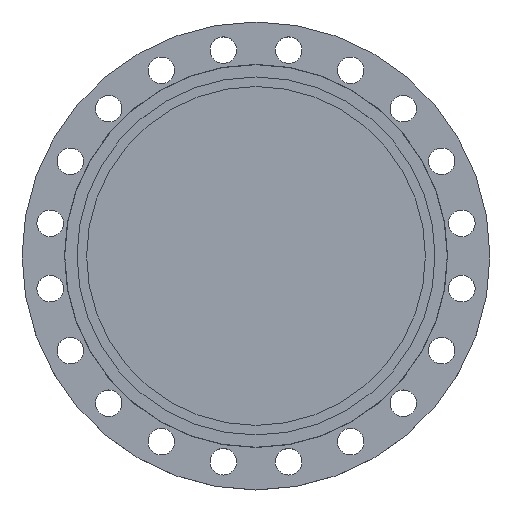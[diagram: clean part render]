
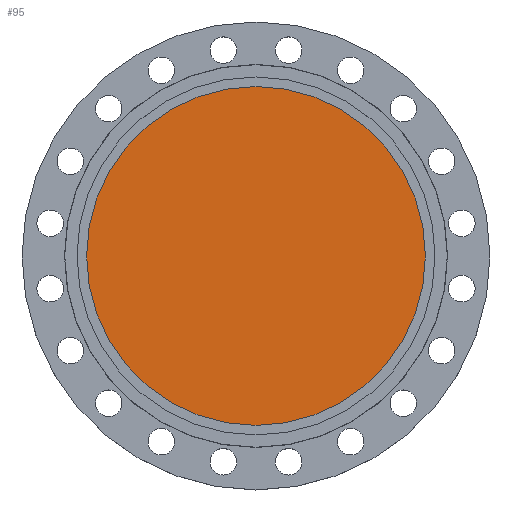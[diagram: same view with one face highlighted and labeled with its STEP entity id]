
A CAD part, top view. The second image highlights one B-rep face of the part: STEP entity #95.
In plain terms, the highlighted planar face has unit normal (0, 0, 1).
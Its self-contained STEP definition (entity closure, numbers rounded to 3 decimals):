
#42 = CARTESIAN_POINT ( 'NONE',  ( 248., 0., 0. ) ) ;
#95 = ADVANCED_FACE ( 'NONE', ( #996 ), #994, .T. ) ;
#333 = AXIS2_PLACEMENT_3D ( 'NONE', #877, #1612, #2043 ) ;
#389 = DIRECTION ( 'NONE',  ( -1., 0., 0. ) ) ;
#428 = DIRECTION ( 'NONE',  ( 0., 0., -1. ) ) ;
#464 = CARTESIAN_POINT ( 'NONE',  ( -248., 0., 0. ) ) ;
#511 = AXIS2_PLACEMENT_3D ( 'NONE', #993, #990, #987 ) ;
#522 = CARTESIAN_POINT ( 'NONE',  ( 0., 0., 0. ) ) ;
#552 = AXIS2_PLACEMENT_3D ( 'NONE', #522, #428, #389 ) ;
#877 = CARTESIAN_POINT ( 'NONE',  ( 0., 0., 0. ) ) ;
#987 = DIRECTION ( 'NONE',  ( 1., 0., 0. ) ) ;
#990 = DIRECTION ( 'NONE',  ( 0., 0., 1. ) ) ;
#993 = CARTESIAN_POINT ( 'NONE',  ( 0., 0., 0. ) ) ;
#994 = PLANE ( 'NONE',  #511 ) ;
#996 = FACE_OUTER_BOUND ( 'NONE', #1934, .T. ) ;
#1029 = VERTEX_POINT ( 'NONE', #464 ) ;
#1210 = ORIENTED_EDGE ( 'NONE', *, *, #2002, .F. ) ;
#1211 = ORIENTED_EDGE ( 'NONE', *, *, #1716, .F. ) ;
#1612 = DIRECTION ( 'NONE',  ( 0., 0., -1. ) ) ;
#1634 = CIRCLE ( 'NONE', #552, 248. ) ;
#1716 = EDGE_CURVE ( 'NONE', #1029, #1992, #1634, .T. ) ;
#1934 = EDGE_LOOP ( 'NONE', ( #1211, #1210 ) ) ;
#1992 = VERTEX_POINT ( 'NONE', #42 ) ;
#2002 = EDGE_CURVE ( 'NONE', #1992, #1029, #2087, .T. ) ;
#2043 = DIRECTION ( 'NONE',  ( -1., 0., 0. ) ) ;
#2087 = CIRCLE ( 'NONE', #333, 248. ) ;
